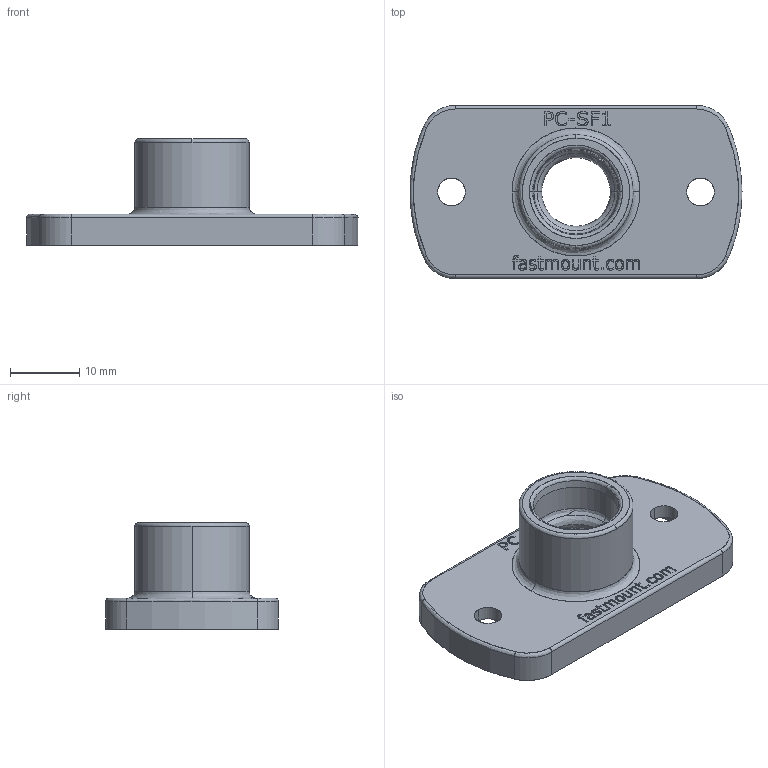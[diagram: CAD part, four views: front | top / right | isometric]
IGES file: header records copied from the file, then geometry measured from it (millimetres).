
Start section: SolidWorks IGES file using analytic representation for surfaces
Global section: file name: D:\Blender\Clients\FAS - Fastmount\FAS000 - General\Customer files\Clip Geometry\PC - Standard Range\IGES\PC-SF1.IGS; native system: SolidWorks 2018; preprocessor: SolidWorks 2018; author: Evan; date: 190204.094337; units: millimetre
Bounding box: 48 x 25 x 15.4 mm (x, y, z)
Surface area: 4154.7 mm2 (no closed solid volume)
Topology: 0 solids, 0 shells, 418 faces, 3086 edges, 3078 vertices
Faces by surface type: bspline 355, revolution 63
